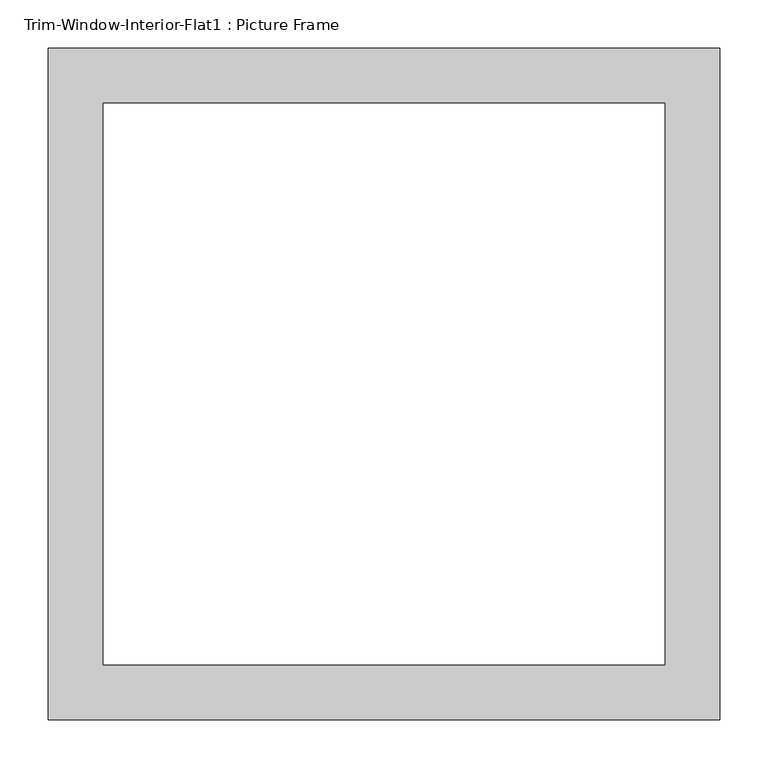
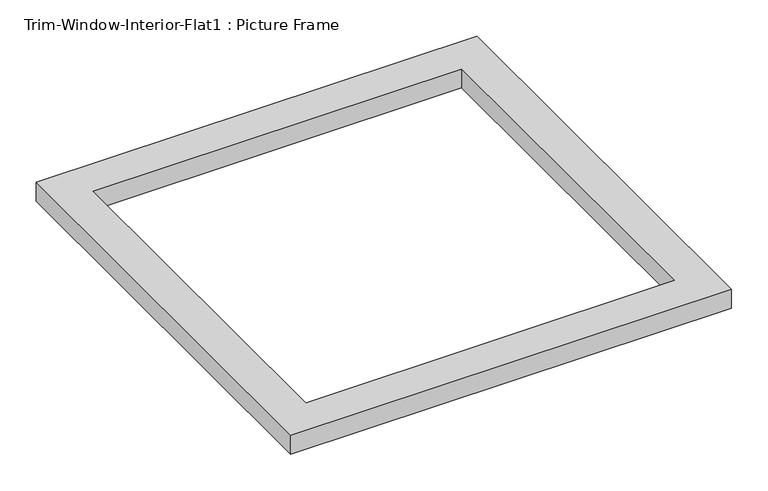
"""IFC4 building model written with IfcOpenShell, lengths in millimetres: proxy geometry, Trim-Window-Interior-Flat1 : Picture Frame."""

from ifc_helpers import new_model, si_unit, origin, origin_with_axes, place, context, project, spatial, polyline, outline, extrude, source, transform, mapped, element, save


def trim_window_interior_flat1_picture_frame_cb1a8cf6(model_context):
    return source(origin(), model_context, "Body", "SweptSolid", [
        extrude(outline(polyline([(349.25, -44.45), (-349.25, -44.45), (-349.25, 654.05), (349.25, 654.05), (349.25, -44.45)]), holes=[polyline([(292.1, 12.7), (292.1, 596.9), (-292.1, 596.9), (-292.1, 12.7), (292.1, 12.7)])]), origin_with_axes(), (0.0, 0.0, 1.0), 31.75),
    ])


if __name__ == "__main__":
    model = new_model("IFC4")
    model_context = context("Model", 3, world=origin())
    ifc_project = project(units=[si_unit("LENGTHUNIT", "METRE", prefix="MILLI")], contexts=[model_context])
    site = spatial("IfcSite", under=ifc_project)
    building = spatial("IfcBuilding", under=site)
    placement = place(None, origin())
    trim_window_interior_flat1_picture_frame_shape = trim_window_interior_flat1_picture_frame_cb1a8cf6(model_context)
    element("IfcBuildingElementProxy", 1, Name="Trim-Window-Interior-Flat1 : Picture Frame", ObjectType="Trim-Window-Interior-Flat1 : Picture Frame", at=placement, inside=building, context=model_context, shape_type="MappedRepresentation", body=[
        mapped(trim_window_interior_flat1_picture_frame_shape, transform((0.0, 0.0, 0.0), x_axis=(1.0, 0.0, 0.0), y_axis=(0.0, 1.0, 0.0), z_axis=(0.0, 0.0, 1.0))),
    ])
    save(model, "model.ifc")
